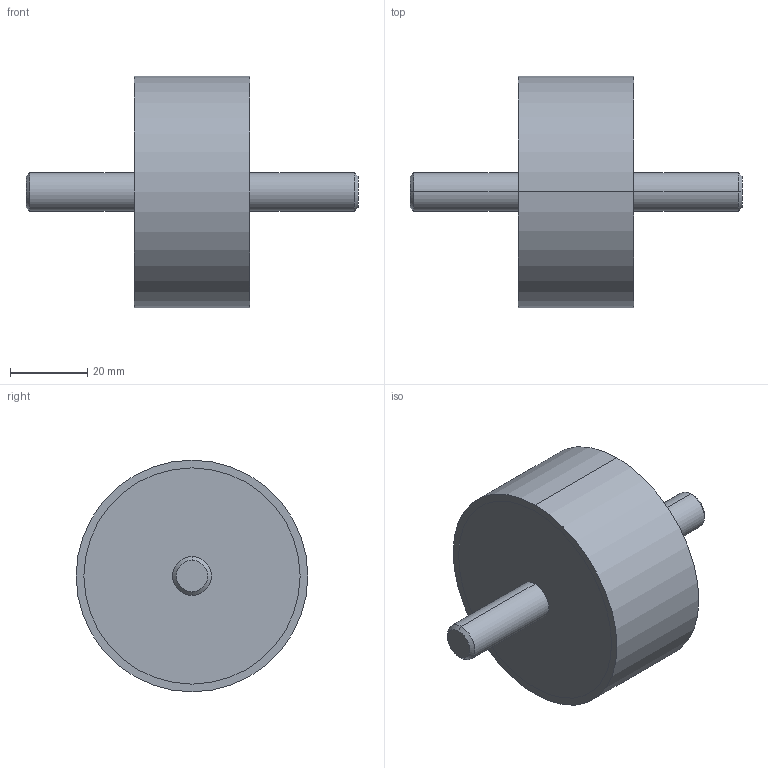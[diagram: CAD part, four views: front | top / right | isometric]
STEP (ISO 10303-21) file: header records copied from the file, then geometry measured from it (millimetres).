
FILE_DESCRIPTION (( 'STEP AP214' ), '1' );
FILE_NAME ('351-60-30-M10-SS-55.step', '2025-07-23T09:54:07', ( '' ), ( '' ), 'SwSTEP 2.0', 'SolidWorks 2022', '' );
FILE_SCHEMA (( 'AUTOMOTIVE_DESIGN' ));
Length unit declared in the file: millimetre
Products named in the file (1): 351-60-30-M10-SS-55
Bounding box: 86 x 60 x 60 mm (x, y, z)
Volume: 89147 mm3; surface area: 13035.9 mm2
Topology: 1 solids, 1 shells, 20 faces, 38 edges, 24 vertices
Faces by surface type: cylinder 10, plane 6, cone 4
Entity records: 636 total; most frequent: DIRECTION 104, CARTESIAN_POINT 83, ORIENTED_EDGE 76, AXIS2_PLACEMENT_3D 45, EDGE_CURVE 38, VERTEX_POINT 24, CIRCLE 24, EDGE_LOOP 24
